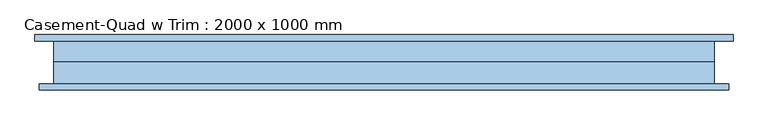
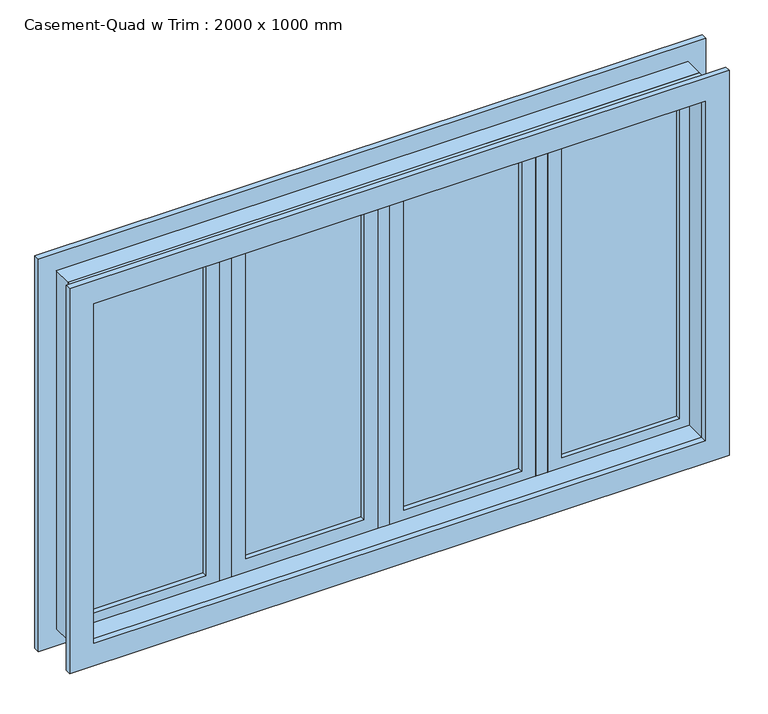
"""IFC4 building model written with IfcOpenShell, lengths in millimetres: window geometry, Casement-Quad w Trim : 2000 x 1000 mm."""

import ifcopenshell
import ifcopenshell.guid

model = None  # the IFC model being written
_history = None  # IfcOwnerHistory: only IFC2X3 demands one
_inside = {}  # id of a spatial element -> (the spatial element, [elements in it])
_under = {}  # id of a project, library or spatial element -> (it, [spatial elements below it])
_declared = {}  # id of a project -> (the project, [libraries it declares])
_typed = {}  # id of a type object -> (the type object, [elements of that type])
_made_of = {}  # id of a material, layer set ... -> (it, [elements and type objects made of it])


def new_model(schema):
    """Start an empty IFC model of exactly this schema.

    Asked for "IFC4X3", IfcOpenShell would pick the latest addendum, in which some entities
    have other attributes; the version numbers below select the first issue.
    IFC2X3 requires an IfcOwnerHistory on every rooted entity: one is made here for all.
    """
    global model, _history
    if schema == "IFC4X3":
        model = ifcopenshell.file(schema_version=(4, 3, 0, 0))
    else:
        model = ifcopenshell.file(schema=schema)
    _inside.clear()
    _under.clear()
    _declared.clear()
    _typed.clear()
    _made_of.clear()
    _history = None
    if model.schema == "IFC2X3":
        org = make("IfcOrganization", Name="unknown")
        user = make(
            "IfcPersonAndOrganization",
            ThePerson=make("IfcPerson", FamilyName="unknown"),
            TheOrganization=org,
        )
        app = make(
            "IfcApplication",
            ApplicationDeveloper=org,
            Version="unknown",
            ApplicationFullName="unknown",
            ApplicationIdentifier="unknown",
        )
        _history = make(
            "IfcOwnerHistory",
            OwningUser=user,
            OwningApplication=app,
            ChangeAction="ADDED",
            CreationDate=0,
        )
    return model


def make(cls, **values):
    """One entity of the class cls with the attributes given. An attribute that is None is left unset."""
    return model.create_entity(
        cls, **{name: value for name, value in values.items() if value is not None}
    )


def rooted(cls, **values):
    """An entity with a GlobalId (a new one), such as an element, a storey or a relation."""
    return make(cls, GlobalId=ifcopenshell.guid.new(), OwnerHistory=_history, **values)


def si_unit(unit_type, name, prefix=None):
    """IfcSIUnit, for example si_unit("LENGTHUNIT", "METRE", prefix="MILLI")."""
    return make("IfcSIUnit", UnitType=unit_type, Prefix=prefix, Name=name)


def assignment(units):
    """IfcUnitAssignment: the units of a project."""
    return None if units is None else make("IfcUnitAssignment", Units=units)


def point(xyz):
    """IfcCartesianPoint."""
    return None if xyz is None else make("IfcCartesianPoint", Coordinates=xyz)


def direction(xyz):
    """IfcDirection."""
    return None if xyz is None else make("IfcDirection", DirectionRatios=xyz)


def frame(location, z_axis=None, x_axis=None):
    """IfcAxis2Placement3D, a coordinate frame: its origin and axes. An axis left out is left unset."""
    return make(
        "IfcAxis2Placement3D",
        Location=point(location),
        Axis=direction(z_axis),
        RefDirection=direction(x_axis),
    )


def origin():
    """The frame at (0, 0, 0) with its axes left unset."""
    return frame((0.0, 0.0, 0.0))


def place(relative_to, where):
    """IfcLocalPlacement: puts the frame where relative to a parent placement (None: the world)."""
    return make(
        "IfcLocalPlacement", PlacementRelTo=relative_to, RelativePlacement=where
    )


def context(
    kind, dimensions, precision=None, world=None, true_north=None, identifier=None
):
    """IfcGeometricRepresentationContext, for example the 3D "Model" context."""
    return make(
        "IfcGeometricRepresentationContext",
        ContextIdentifier=identifier,
        ContextType=kind,
        CoordinateSpaceDimension=dimensions,
        Precision=precision,
        WorldCoordinateSystem=world,
        TrueNorth=true_north,
    )


def project(units=None, contexts=None):
    """IfcProject with its units and contexts."""
    return rooted(
        "IfcProject",
        Name="project",
        RepresentationContexts=contexts,
        UnitsInContext=assignment(units),
    )


def spatial(cls, under=None, at=None, **own):
    """A site, building, storey or space (cls), placed at a placement, below another one or the project."""
    s = rooted(cls, ObjectPlacement=at, **own)
    if under is not None:
        _under.setdefault(under.id(), (under, []))[1].append(s)
    return s


def polyline(points):
    """IfcPolyline through the points."""
    return make("IfcPolyline", Points=[point(p) for p in points])


def outline(outer, holes=None, kind="AREA"):
    """IfcArbitraryClosedProfileDef: a profile drawn as a closed curve; with holes, ...WithVoids."""
    if holes is None:
        return make("IfcArbitraryClosedProfileDef", ProfileType=kind, OuterCurve=outer)
    return make(
        "IfcArbitraryProfileDefWithVoids",
        ProfileType=kind,
        OuterCurve=outer,
        InnerCurves=holes,
    )


def extrude(swept, where, along, depth):
    """IfcExtrudedAreaSolid: the profile swept, set in the frame where, extruded along a direction by depth."""
    return make(
        "IfcExtrudedAreaSolid",
        SweptArea=swept,
        Position=where,
        ExtrudedDirection=direction(along),
        Depth=depth,
    )


def shape(context_of_items, identifier, shape_type, items):
    """IfcShapeRepresentation: the items that make up one representation, for example the "Body"."""
    return make(
        "IfcShapeRepresentation",
        ContextOfItems=context_of_items,
        RepresentationIdentifier=identifier,
        RepresentationType=shape_type,
        Items=items,
    )


def source(mapping_origin, context_of_items, identifier, shape_type, items):
    """IfcRepresentationMap: a shape defined once, which mapped items show again and again."""
    return make(
        "IfcRepresentationMap",
        MappingOrigin=mapping_origin,
        MappedRepresentation=shape(context_of_items, identifier, shape_type, items),
    )


def transform(
    local_origin,
    x_axis=None,
    y_axis=None,
    z_axis=None,
    scale=None,
    scale2=None,
    scale3=None,
    uniform=True,
):
    """IfcCartesianTransformationOperator3D, or its non-uniform kind. x_axis, y_axis, z_axis: its Axis1, 2, 3."""
    if uniform:
        return make(
            "IfcCartesianTransformationOperator3D",
            Axis1=direction(x_axis),
            Axis2=direction(y_axis),
            LocalOrigin=point(local_origin),
            Scale=scale,
            Axis3=direction(z_axis),
        )
    return make(
        "IfcCartesianTransformationOperator3DnonUniform",
        Axis1=direction(x_axis),
        Axis2=direction(y_axis),
        LocalOrigin=point(local_origin),
        Scale=scale,
        Axis3=direction(z_axis),
        Scale2=scale2,
        Scale3=scale3,
    )


def mapped(mapping_source, mapping_target):
    """IfcMappedItem: shows the shape of a source again, moved by a transform."""
    return make(
        "IfcMappedItem", MappingSource=mapping_source, MappingTarget=mapping_target
    )


def made_of(thing, what):
    """Note that an element or type object is made of a material, layer set ...; save() writes the relation."""
    if what is not None:
        _made_of.setdefault(what.id(), (what, []))[1].append(thing)
    return thing


def element(
    cls,
    number,
    at=None,
    inside=None,
    cuts=None,
    type_object=None,
    material=None,
    context=None,
    identifier="Body",
    shape_type=None,
    held_by="IfcProductDefinitionShape",
    body=None,
    shapes=None,
    **own,
):
    """One element of the class cls, such as IfcWall. Its Tag is "e" and its number.

    at: its placement. inside: the storey or other place that contains it. cuts: it is an
    opening in that element (IfcRelVoidsElement). A single representation is given by context,
    identifier, shape_type and body (its items); several are given by shapes. held_by: the class
    of the entity that holds the representations. save() writes the other relations.
    """
    e = rooted(cls, Tag="e%d" % number, ObjectPlacement=at, **own)
    if body is not None:
        shapes = [shape(context, identifier, shape_type, body)]
    if shapes is not None:
        e.Representation = make(held_by, Representations=shapes)
    if inside is not None:
        _inside.setdefault(inside.id(), (inside, []))[1].append(e)
    if cuts is not None:
        rooted(
            "IfcRelVoidsElement", RelatingBuildingElement=cuts, RelatedOpeningElement=e
        )
    if type_object is not None:
        _typed.setdefault(type_object.id(), (type_object, []))[1].append(e)
    return made_of(e, material)


def aggregate(whole, parts):
    """IfcRelAggregates: a whole, such as a stair, and the parts it consists of."""
    return rooted("IfcRelAggregates", RelatingObject=whole, RelatedObjects=parts)


def save(model, path):
    """Write the relations noted so far, then the file.

    IfcRelAggregates (storeys below a building ...), IfcRelContainedInSpatialStructure (elements
    in a storey), IfcRelDefinesByType, IfcRelAssociatesMaterial and IfcRelDeclares: one each for
    every whole, place, type object, material and project.
    """
    for whole, parts in _under.values():
        aggregate(whole, parts)
    for where, things in _inside.values():
        rooted(
            "IfcRelContainedInSpatialStructure",
            RelatedElements=things,
            RelatingStructure=where,
        )
    for kind, things in _typed.values():
        rooted("IfcRelDefinesByType", RelatedObjects=things, RelatingType=kind)
    for what, things in _made_of.values():
        rooted("IfcRelAssociatesMaterial", RelatedObjects=things, RelatingMaterial=what)
    for by, libraries in _declared.values():
        rooted("IfcRelDeclares", RelatingContext=by, RelatedDefinitions=libraries)
    model.write(path)


def casement_quad_w_trim_2000_x_1000_mm_fe9ded81(model_context):
    return source(origin(), model_context, "Body", "SweptSolid", [
        extrude(outline(polyline([(2158.85, 1044.45), (2158.85, -1044.45), (869.95, -1044.45), (869.95, 1044.45), (2158.85, 1044.45)]), holes=[polyline([(2082.65, -968.25), (2082.65, 968.25), (946.15, 968.25), (946.15, -968.25), (2082.65, -968.25)])]), frame((0.0, -65.0, 0.0), z_axis=(0.0, 1.0, 0.0), x_axis=(0.0, 0.0, 1.0)), (0.0, 0.0, 1.0), 19.05),
        extrude(outline(polyline([(2171.55, -1057.15), (857.25, -1057.15), (857.25, 1057.15), (2171.55, 1057.15), (2171.55, -1057.15)]), holes=[polyline([(2095.35, 980.95), (933.45, 980.95), (933.45, -980.95), (2095.35, -980.95), (2095.35, 980.95)])]), frame((0.0, 84.05, 0.0), z_axis=(0.0, 1.0, 0.0), x_axis=(0.0, 0.0, 1.0)), (0.0, 0.0, 1.0), 19.05),
        extrude(outline(polyline([(63.5, 49.125), (436.5, 49.125), (436.5, 36.425), (63.5, 36.425), (63.5, 49.125)])), frame((0.0, 0.0, 977.9), z_axis=(0.0, 0.0, 1.0), x_axis=(1.0, 0.0, 0.0)), (0.0, 0.0, 1.0), 1073.0),
        extrude(outline(polyline([(-436.5, 49.125), (-63.5, 49.125), (-63.5, 36.425), (-436.5, 36.425), (-436.5, 49.125)])), frame((0.0, 0.0, 990.6), z_axis=(0.0, 0.0, 1.0), x_axis=(1.0, 0.0, 0.0)), (0.0, 0.0, 1.0), 1060.3),
        extrude(outline(polyline([(2095.35, 19.05), (933.45, 19.05), (933.45, 480.95), (2095.35, 480.95), (2095.35, 19.05)]), holes=[polyline([(2050.9, 63.5), (2050.9, 436.5), (977.9, 436.5), (977.9, 63.5), (2050.9, 63.5)])]), frame((0.0, 20.55, 0.0), z_axis=(0.0, 1.0, 0.0), x_axis=(0.0, 0.0, 1.0)), (0.0, 0.0, 1.0), 44.45),
        extrude(outline(polyline([(2095.35, -480.95), (933.45, -480.95), (933.45, -19.05), (2095.35, -19.05), (2095.35, -480.95)]), holes=[polyline([(2050.9, -436.5), (2050.9, -63.5), (990.6, -63.5), (990.6, -436.5), (2050.9, -436.5)])]), frame((0.0, 20.55, 0.0), z_axis=(0.0, 1.0, 0.0), x_axis=(0.0, 0.0, 1.0)), (0.0, 0.0, 1.0), 44.45),
        extrude(outline(polyline([(563.5, 49.125), (936.5, 49.125), (936.5, 36.425), (563.5, 36.425), (563.5, 49.125)])), frame((0.0, 0.0, 977.9), z_axis=(0.0, 0.0, 1.0), x_axis=(1.0, 0.0, 0.0)), (0.0, 0.0, 1.0), 1073.0),
        extrude(outline(polyline([(2095.35, 519.05), (933.45, 519.05), (933.45, 980.95), (2095.35, 980.95), (2095.35, 519.05)]), holes=[polyline([(2050.9, 563.5), (2050.9, 936.5), (977.9, 936.5), (977.9, 563.5), (2050.9, 563.5)])]), frame((0.0, 20.55, 0.0), z_axis=(0.0, 1.0, 0.0), x_axis=(0.0, 0.0, 1.0)), (0.0, 0.0, 1.0), 44.45),
        extrude(outline(polyline([(-480.95, 20.55), (-519.05, 20.55), (-519.05, 84.05), (-480.95, 84.05), (-480.95, 20.55)])), frame((0.0, 0.0, 933.45), z_axis=(0.0, 0.0, 1.0), x_axis=(1.0, 0.0, 0.0)), (0.0, 0.0, 1.0), 1161.9),
        extrude(outline(polyline([(519.05, 20.55), (480.95, 20.55), (480.95, 84.05), (519.05, 84.05), (519.05, 20.55)])), frame((0.0, 0.0, 933.45), z_axis=(0.0, 0.0, 1.0), x_axis=(1.0, 0.0, 0.0)), (0.0, 0.0, 1.0), 1161.9),
        extrude(outline(polyline([(19.05, 20.55), (-19.05, 20.55), (-19.05, 84.05), (19.05, 84.05), (19.05, 20.55)])), frame((0.0, 0.0, 933.45), z_axis=(0.0, 0.0, 1.0), x_axis=(1.0, 0.0, 0.0)), (0.0, 0.0, 1.0), 1161.9),
        extrude(outline(polyline([(-563.5, 36.425), (-936.5, 36.425), (-936.5, 49.125), (-563.5, 49.125), (-563.5, 36.425)])), frame((0.0, 0.0, 977.9), z_axis=(0.0, 0.0, 1.0), x_axis=(1.0, 0.0, 0.0)), (0.0, 0.0, 1.0), 1073.0),
        extrude(outline(polyline([(2095.35, -980.95), (933.45, -980.95), (933.45, -519.05), (2095.35, -519.05), (2095.35, -980.95)]), holes=[polyline([(2050.9, -936.5), (2050.9, -563.5), (977.9, -563.5), (977.9, -936.5), (2050.9, -936.5)])]), frame((0.0, 20.55, 0.0), z_axis=(0.0, 1.0, 0.0), x_axis=(0.0, 0.0, 1.0)), (0.0, 0.0, 1.0), 44.45),
        extrude(outline(polyline([(2114.4, -1000.0), (914.4, -1000.0), (914.4, 1000.0), (2114.4, 1000.0), (2114.4, -1000.0)]), holes=[polyline([(2082.65, -968.25), (2082.65, 968.25), (946.15, 968.25), (946.15, -968.25), (2082.65, -968.25)])]), frame((0.0, -45.95, 0.0), z_axis=(0.0, 1.0, 0.0), x_axis=(0.0, 0.0, 1.0)), (0.0, 0.0, 1.0), 66.5),
        extrude(outline(polyline([(2114.4, 1000.0), (2114.4, -1000.0), (914.4, -1000.0), (914.4, 1000.0), (2114.4, 1000.0)]), holes=[polyline([(2095.35, 980.95), (933.45, 980.95), (933.45, -980.95), (2095.35, -980.95), (2095.35, 980.95)])]), frame((0.0, 20.55, 0.0), z_axis=(0.0, 1.0, 0.0), x_axis=(0.0, 0.0, 1.0)), (0.0, 0.0, 1.0), 63.5),
    ])


if __name__ == "__main__":
    model = new_model("IFC4")
    model_context = context("Model", 3, world=origin())
    ifc_project = project(units=[si_unit("LENGTHUNIT", "METRE", prefix="MILLI")], contexts=[model_context])
    site = spatial("IfcSite", under=ifc_project)
    building = spatial("IfcBuilding", under=site)
    placement = place(None, origin())
    casement_quad_w_trim_2000_x_1000_mm_shape = casement_quad_w_trim_2000_x_1000_mm_fe9ded81(model_context)
    element("IfcWindow", 1, ObjectType="Casement-Quad w Trim : 2000 x 1000 mm", at=placement, inside=building, context=model_context, shape_type="MappedRepresentation", body=[
        mapped(casement_quad_w_trim_2000_x_1000_mm_shape, transform((0.0, 0.0, 0.0), x_axis=(1.0, 0.0, 0.0), y_axis=(0.0, 1.0, 0.0), z_axis=(0.0, 0.0, 1.0))),
    ])
    save(model, "model.ifc")
